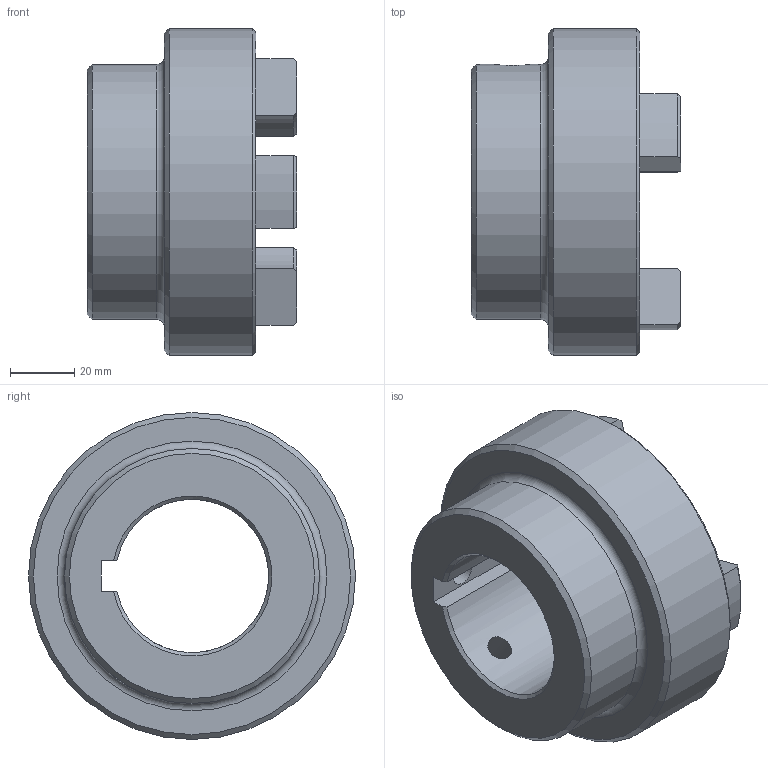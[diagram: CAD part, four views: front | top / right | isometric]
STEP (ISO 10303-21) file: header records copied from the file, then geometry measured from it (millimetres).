
FILE_DESCRIPTION (( 'STEP AP203' ), '1' );
FILE_NAME ('RC4.step', '2024-07-24T17:47:42', ( 'Adlan' ), ( '' ), 'SwSTEP 2.0', 'SolidWorks 2013', '' );
FILE_SCHEMA (( 'CONFIG_CONTROL_DESIGN' ));
Length unit declared in the file: inch
Products named in the file (1): RC4
Bounding box: 65.02 x 101.6 x 101.6 mm (x, y, z)
Volume: 209937.4 mm3; surface area: 41056.2 mm2
Topology: 1 solids, 1 shells, 69 faces, 177 edges, 111 vertices
Faces by surface type: cylinder 26, plane 18, torus 13, cone 12
Full cylindrical faces by diameter (mm): 7.937 x2, 79.248 x1, 101.6 x1
Entity records: 2399 total; most frequent: CARTESIAN_POINT 661, DIRECTION 364, ORIENTED_EDGE 328, EDGE_CURVE 164, AXIS2_PLACEMENT_3D 147, VERTEX_POINT 108, EDGE_LOOP 86, CIRCLE 77
